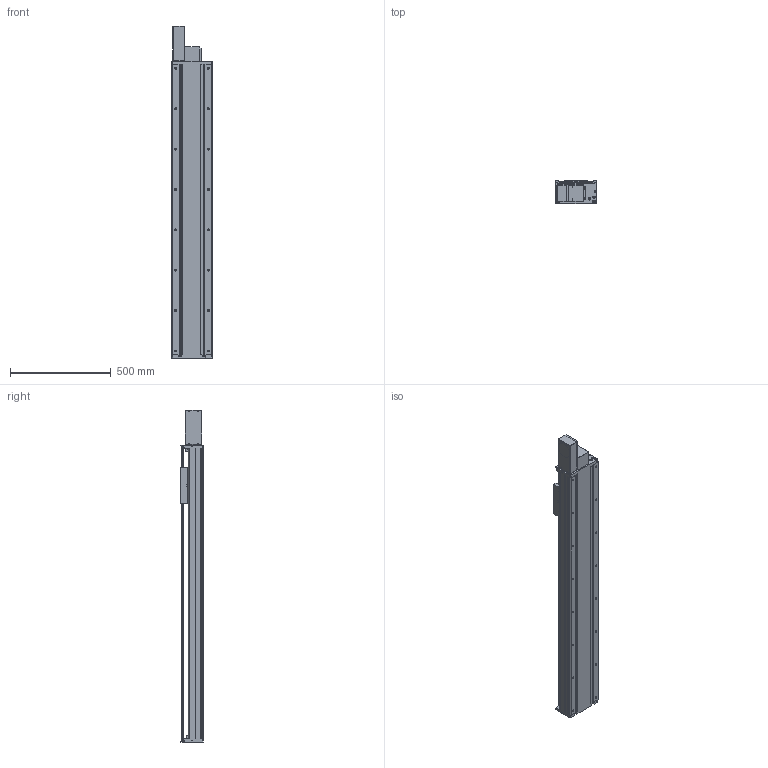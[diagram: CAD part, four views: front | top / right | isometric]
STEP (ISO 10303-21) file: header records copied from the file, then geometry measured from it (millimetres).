
FILE_DESCRIPTION(/* description */ (''),/* implementation_level */ '2;1');
FILE_NAME(/* name */ 'TKB200-FR-1200_asm1.stp',/* time_stamp */ '2016-05-18T11:37:26+08:00',/* author */ (''),/* organization */ (''),/* preprocessor_version */ 'ST-DEVELOPER v15',/* originating_system */ 'SIEMENS PLM Software NX 8.5',/* authorisation */ '');
FILE_SCHEMA (('AUTOMOTIVE_DESIGN { 1 0 10303 214 3 1 1 1 }'));
Length unit declared in the file: millimetre
Products named in the file (3): 200-2; 200-1; TKB200-FR-1200_asm1
Assembly tree (2 placements, depth 2):
  TKB200-FR-1200_asm1
    200-1
    200-2
Bounding box: 200 x 115 x 1645 mm (x, y, z)
Volume: 9565042.6 mm3; surface area: 3007714.8 mm2
Topology: 2 solids, 3 shells, 1040 faces, 2967 edges, 1910 vertices
Faces by surface type: cylinder 481, plane 473, cone 70, bspline 16
Full cylindrical faces by diameter (mm): 2.5 x2, 3.3 x16, 4.3 x4, 4.5 x8, 5 x2, 6.6 x34, 6.8 x8, 8 x6, 9 x24, 10 x4, 11 x22, 12 x16, 14 x16, 75 x1
Entity records: 35847 total; most frequent: CARTESIAN_POINT 9627, DIRECTION 5358, ORIENTED_EDGE 5272, EDGE_CURVE 2636, AXIS2_PLACEMENT_3D 1945, VERTEX_POINT 1814, LINE 1468, VECTOR 1468
